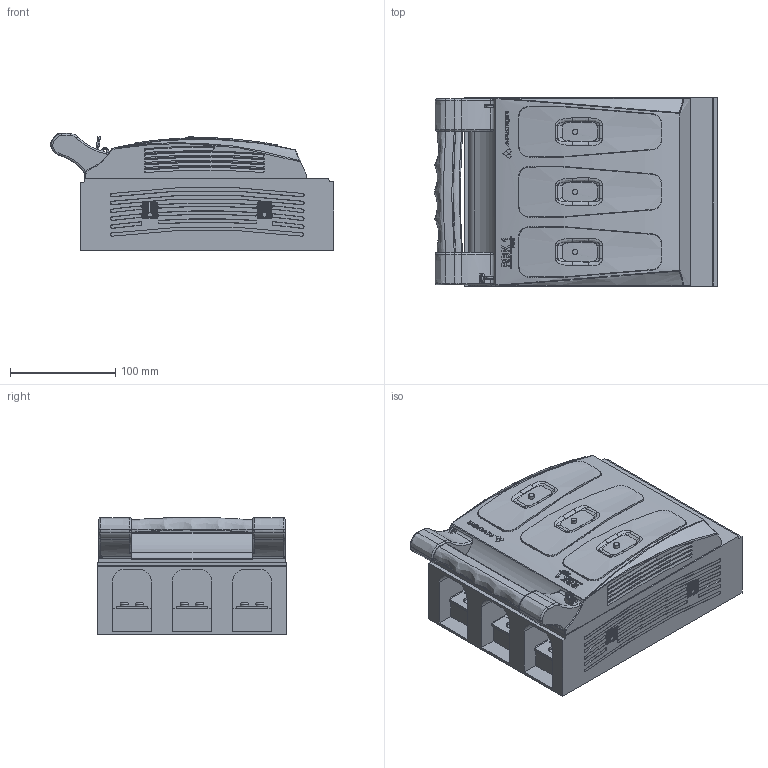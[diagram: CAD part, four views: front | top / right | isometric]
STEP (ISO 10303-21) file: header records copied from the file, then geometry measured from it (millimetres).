
FILE_DESCRIPTION(/* description */ (''),/* implementation_level */ '2;1');
FILE_NAME(/* name */ 'RBK 1 pro-VD-M - 63-811784-041.stp',/* time_stamp */ '2019-03-08T14:41:13+01:00',/* author */ (''),/* organization */ (''),/* preprocessor_version */ 'ST-DEVELOPER v16',/* originating_system */ 'SIEMENS PLM Software NX 10.0',/* authorisation */ '');
FILE_SCHEMA (('AUTOMOTIVE_DESIGN { 1 0 10303 214 3 1 1 1 }'));
Products named in the file (1): 710_23CC0B2D1js5
Bounding box: 268.9 x 180 x 111 mm (x, y, z)
Surface area: 284905.4 mm2
Topology: 12 solids, 13 shells, 2536 faces, 6736 edges, 4288 vertices
Faces by surface type: plane 1553, bspline 335, cylinder 322, cone 145, torus 81, extrusion 52, sphere 30, revolution 18
Full cylindrical faces by diameter (mm): 4.5 x3, 11 x3
Entity records: 98087 total; most frequent: CARTESIAN_POINT 34539, ORIENTED_EDGE 13284, DIRECTION 12264, EDGE_CURVE 6642, AXIS2_PLACEMENT_3D 4521, VERTEX_POINT 4273, VECTOR 3200, LINE 3148
